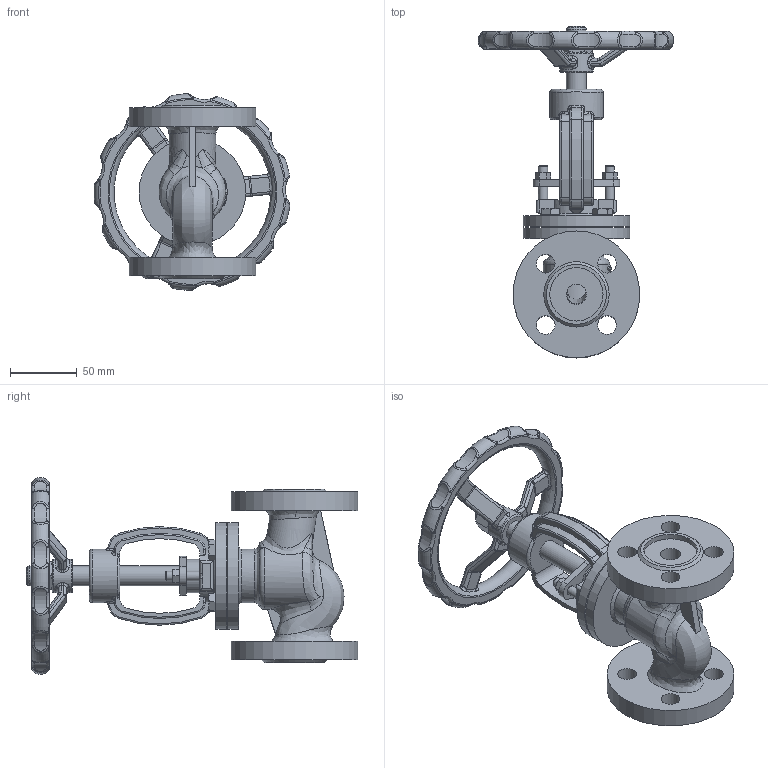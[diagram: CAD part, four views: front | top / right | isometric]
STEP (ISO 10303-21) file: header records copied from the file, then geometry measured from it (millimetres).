
FILE_DESCRIPTION(('STEP AP203'), '1');
FILE_NAME('VSO3131M-F-S 孰囡囗 玎镱痦 DN.ru 捏15 畜40', '2026-04-10T14:54:37', ('R2D2'), (''), 'C3D Converter', 'C3D Toolkit', '');
FILE_SCHEMA(('CONFIG_CONTROL_DESIGN'));
Length unit declared in the file: millimetre
Products named in the file (1): VSO3131M-F-S
Bounding box: 146.86 x 248.75 x 147.46 mm (x, y, z)
Volume: 585919.5 mm3; surface area: 140016.3 mm2
Topology: 1 solids, 5 shells, 1107 faces, 2716 edges, 1659 vertices
Faces by surface type: plane 342, cylinder 197, extrusion 166, bspline 139, torus 132, cone 67, sphere 64
Full cylindrical faces by diameter (mm): 7 x4, 8 x4, 11 x8, 14 x8, 15 x5, 18 x1, 19 x1, 25 x2, 40 x5, 80 x2, 95 x2
Entity records: 85372 total; most frequent: CARTESIAN_POINT 52467, ORIENTED_EDGE 5256, DIRECTION 4264, EDGE_CURVE 2628, VERTEX_POINT 1648, AXIS2_PLACEMENT_3D 1622, EDGE_LOOP 1268, FACE_BOUND 1167
